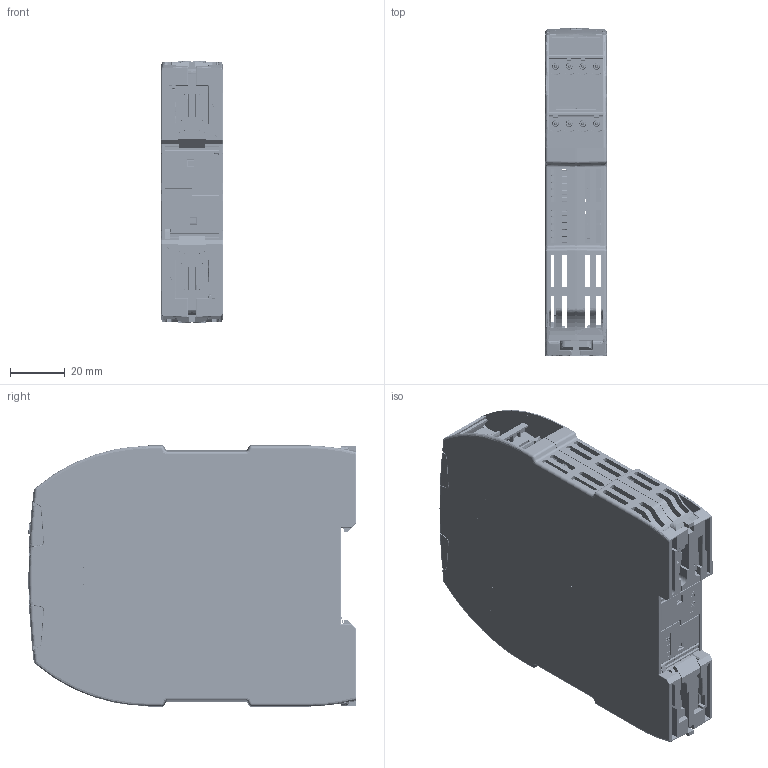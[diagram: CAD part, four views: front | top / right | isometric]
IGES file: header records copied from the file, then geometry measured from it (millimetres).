
Start section:  PTC IGES file: 2037929
Global section: file name: 2037929; native system: Creo Parametric by PTC Inc.; preprocessor: 2019292; author: s.mayer; organization: Unknown; date: 20250707.090844; units: millimetre
Bounding box: 22.5 x 120.35 x 96 mm (x, y, z)
Surface area: 104177.9 mm2 (no closed solid volume)
Topology: 0 solids, 0 shells, 13518 faces, 75458 edges, 75446 vertices
Faces by surface type: bspline 9414, revolution 3610, extrusion 494
